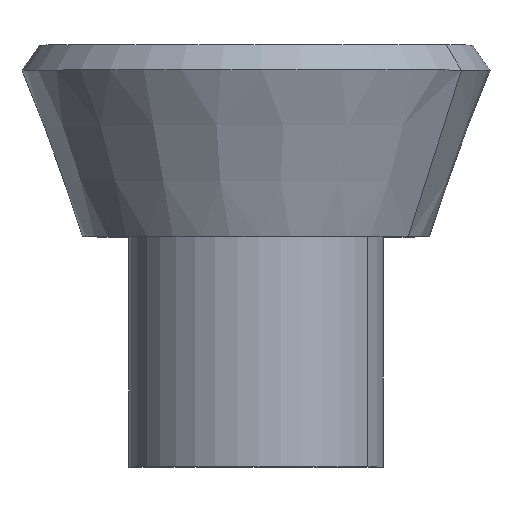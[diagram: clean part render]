
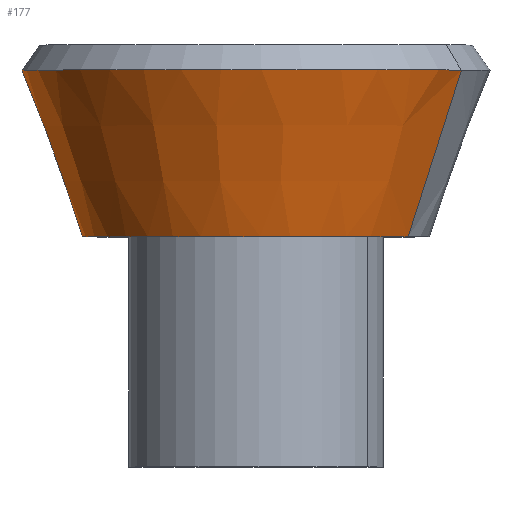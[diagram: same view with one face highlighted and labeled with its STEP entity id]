
A CAD part, top view. The second image highlights one B-rep face of the part: STEP entity #177.
In plain terms, the highlighted conical face has half-angle 20 degrees and reference radius 113 mm.
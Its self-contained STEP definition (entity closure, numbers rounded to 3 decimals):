
#114=CARTESIAN_POINT('Axis2P3D Location',(0.,0.,0.)) ;
#118=CARTESIAN_POINT('Vertex',(99.167,0.,54.175)) ;
#120=CARTESIAN_POINT('Vertex',(-99.167,0.,-54.175)) ;
#147=CARTESIAN_POINT('Axis2P3D Location',(0.,0.,0.)) ;
#152=CARTESIAN_POINT('Line Origine',(116.51,54.298,63.65)) ;
#156=CARTESIAN_POINT('Vertex',(133.854,108.596,73.125)) ;
#159=CARTESIAN_POINT('Axis2P3D Location',(0.,108.596,0.)) ;
#163=CARTESIAN_POINT('Vertex',(-133.854,108.596,-73.125)) ;
#166=CARTESIAN_POINT('Line Origine',(-116.51,54.298,-63.65)) ;
#115=DIRECTION('Axis2P3D Direction',(0.,-1.,0.)) ;
#148=DIRECTION('Axis2P3D Direction',(0.,1.,-0.)) ;
#149=DIRECTION('Axis2P3D XDirection',(0.878,0.,0.479)) ;
#153=DIRECTION('Vector Direction',(0.3,0.94,0.164)) ;
#160=DIRECTION('Axis2P3D Direction',(0.,1.,0.)) ;
#167=DIRECTION('Vector Direction',(-0.3,0.94,-0.164)) ;
#116=AXIS2_PLACEMENT_3D('Circle Axis2P3D',#114,#115,$) ;
#150=AXIS2_PLACEMENT_3D('Cone Axis2P3D',#147,#148,#149) ;
#161=AXIS2_PLACEMENT_3D('Circle Axis2P3D',#159,#160,$) ;
#172=ORIENTED_EDGE('',*,*,#122,.F.) ;
#173=ORIENTED_EDGE('',*,*,#158,.T.) ;
#174=ORIENTED_EDGE('',*,*,#165,.T.) ;
#175=ORIENTED_EDGE('',*,*,#170,.F.) ;
#154=VECTOR('Line Direction',#153,1.) ;
#168=VECTOR('Line Direction',#167,1.) ;
#177=ADVANCED_FACE('PartBody',(#176),#151,.T.) ;
#117=CIRCLE('generated circle',#116,113.) ;
#162=CIRCLE('generated circle',#161,152.526) ;
#151=CONICAL_SURFACE('Cone',#150,113.,0.349) ;
#122=EDGE_CURVE('',#119,#121,#117,.T.) ;
#158=EDGE_CURVE('',#119,#157,#155,.T.) ;
#165=EDGE_CURVE('',#157,#164,#162,.F.) ;
#170=EDGE_CURVE('',#121,#164,#169,.T.) ;
#171=EDGE_LOOP('',(#172,#173,#174,#175)) ;
#176=FACE_OUTER_BOUND('',#171,.T.) ;
#155=LINE('Line',#152,#154) ;
#169=LINE('Line',#166,#168) ;
#119=VERTEX_POINT('',#118) ;
#121=VERTEX_POINT('',#120) ;
#157=VERTEX_POINT('',#156) ;
#164=VERTEX_POINT('',#163) ;
